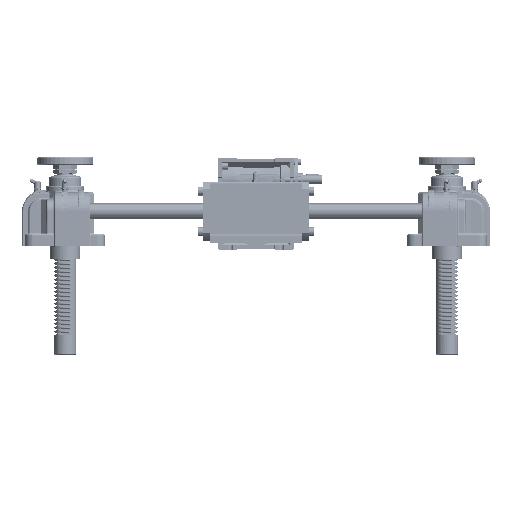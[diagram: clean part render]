
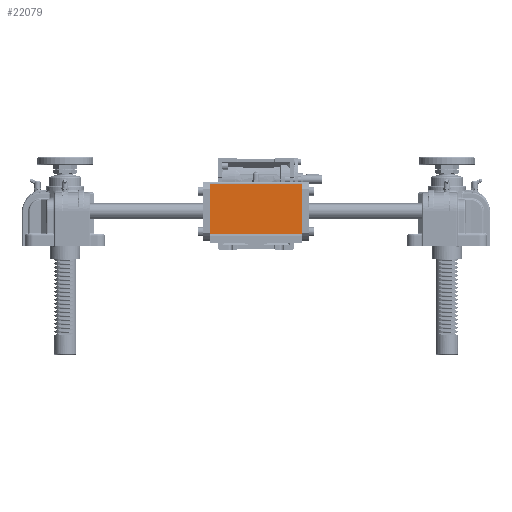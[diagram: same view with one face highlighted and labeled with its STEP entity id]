
A CAD part, front view. The second image highlights one B-rep face of the part: STEP entity #22079.
In plain terms, the highlighted planar face has unit normal (0, -1, 0).
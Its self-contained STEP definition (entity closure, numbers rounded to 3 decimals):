
#22079=ADVANCED_FACE('',(#50627),#50628,.T.);
#50627=FACE_OUTER_BOUND('',#96227,.T.);
#50628=PLANE('',#96228);
#96227=EDGE_LOOP('',(#204431,#204432,#204433,#204434));
#96228=AXIS2_PLACEMENT_3D('',#204435,#204436,#204437);
#204431=ORIENTED_EDGE('',*,*,#261367,.F.);
#204432=ORIENTED_EDGE('',*,*,#261238,.F.);
#204433=ORIENTED_EDGE('',*,*,#261375,.T.);
#204434=ORIENTED_EDGE('',*,*,#261378,.F.);
#204435=CARTESIAN_POINT('',(0.,-47.0,96.5));
#204436=DIRECTION('',(0.0,-1.0,0.0));
#204437=DIRECTION('',(0.0,0.0,-1.0));
#261238=EDGE_CURVE('',#324257,#324252,#324259,.T.);
#261367=EDGE_CURVE('',#324252,#324468,#324469,.T.);
#261375=EDGE_CURVE('',#324257,#324476,#324478,.T.);
#261378=EDGE_CURVE('',#324468,#324476,#324481,.T.);
#324252=VERTEX_POINT('',#438778);
#324257=VERTEX_POINT('',#438784);
#324259=LINE('',#438786,#438787);
#324468=VERTEX_POINT('',#439134);
#324469=LINE('',#439135,#439136);
#324476=VERTEX_POINT('',#439147);
#324478=LINE('',#439149,#439150);
#324481=LINE('',#439155,#439156);
#438778=CARTESIAN_POINT('',(73.0,-47.0,93.5));
#438784=CARTESIAN_POINT('',(-73.0,-47.0,93.5));
#438786=CARTESIAN_POINT('',(0.,-47.0,93.5));
#438787=VECTOR('',#499159,1.0);
#439134=CARTESIAN_POINT('',(73.0,-47.0,14.0));
#439135=CARTESIAN_POINT('',(73.0,-47.0,53.75));
#439136=VECTOR('',#499389,1.0);
#439147=CARTESIAN_POINT('',(-73.0,-47.0,14.0));
#439149=CARTESIAN_POINT('',(-73.0,-47.0,53.75));
#439150=VECTOR('',#499403,1.0);
#439155=CARTESIAN_POINT('',(0.0,-47.0,14.0));
#439156=VECTOR('',#499406,1.0);
#499159=DIRECTION('',(1.0,0.0,0.));
#499389=DIRECTION('',(0.,0.0,-1.0));
#499403=DIRECTION('',(0.,0.0,-1.0));
#499406=DIRECTION('',(-1.0,0.0,0.));
